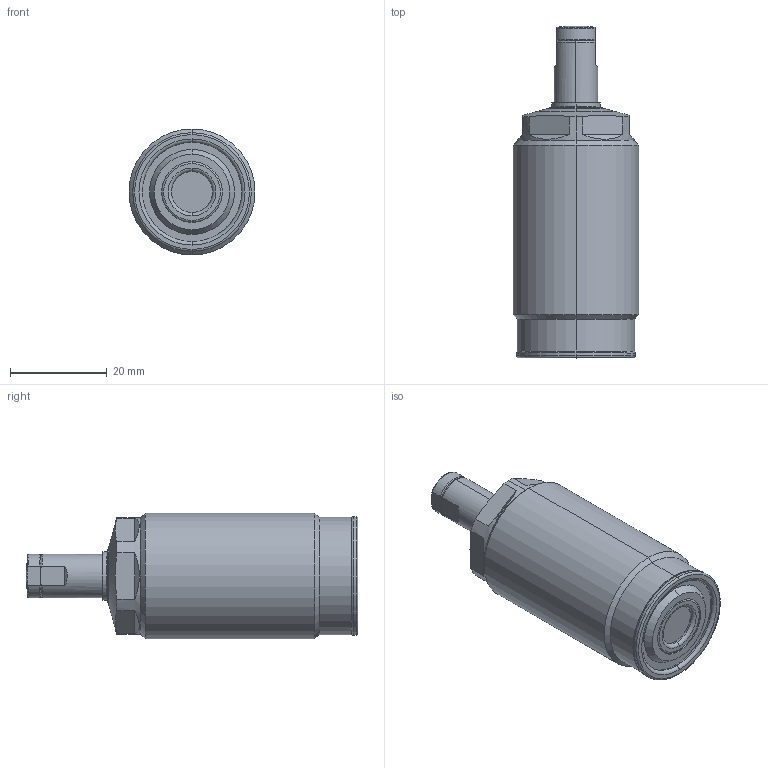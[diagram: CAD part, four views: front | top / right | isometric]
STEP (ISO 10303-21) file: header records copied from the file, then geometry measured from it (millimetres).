
FILE_DESCRIPTION(/* description */ (''),/* implementation_level */ '2;1');
FILE_NAME(/* name */ 'TNE26.stp',/* time_stamp */ '2022-11-17T13:42:34+08:00',/* author */ (''),/* organization */ (''),/* preprocessor_version */ 'ST-DEVELOPER v16.7',/* originating_system */ 'SIEMENS PLM Software NX 12.0',/* authorisation */ '');
FILE_SCHEMA (('AP203_CONFIGURATION_CONTROLLED_3D_DESIGN_OF_MECHANICAL_PARTS_AND_ASSEMBLIES_MIM_LF { 1 0 10303 403 2 1 2}'));
Length unit declared in the file: millimetre
Products named in the file (6): TNE26-04; TNE26-03; TNE26-05; TNE26-01; TNE26-02; WNC0603-x-E_step
Assembly tree (5 placements, depth 2):
  WNC0603-x-E_step
    TNE26-02
    TNE26-01
    TNE26-05
    TNE26-03
    TNE26-04
Bounding box: 26 x 68.5 x 26 mm (x, y, z)
Volume: 25960.5 mm3; surface area: 6702.2 mm2
Topology: 5 solids, 5 shells, 135 faces, 292 edges, 176 vertices
Faces by surface type: torus 39, cylinder 38, plane 36, cone 20, sphere 2
Entity records: 4575 total; most frequent: CARTESIAN_POINT 855, DIRECTION 726, ORIENTED_EDGE 584, AXIS2_PLACEMENT_3D 319, EDGE_CURVE 292, CIRCLE 178, VERTEX_POINT 176, EDGE_LOOP 150
